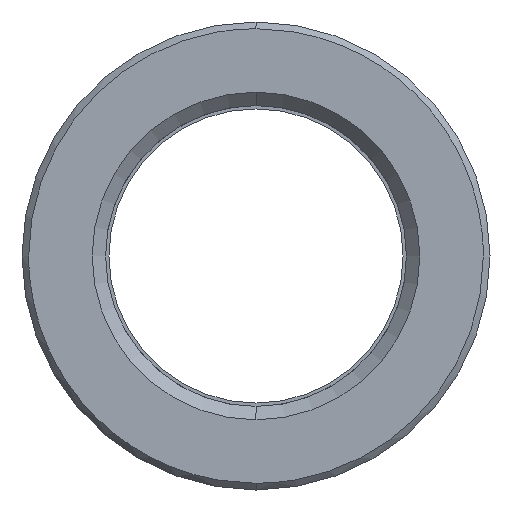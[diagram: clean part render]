
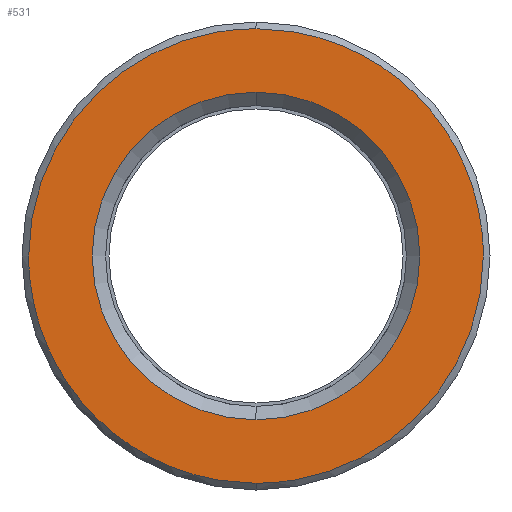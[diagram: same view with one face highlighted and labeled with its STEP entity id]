
A CAD part, left-side view. The second image highlights one B-rep face of the part: STEP entity #531.
In plain terms, the highlighted planar face has unit normal (-1, 0, 0).
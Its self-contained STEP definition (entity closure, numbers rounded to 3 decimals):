
#311=CARTESIAN_POINT('Axis2P3D Location',(0.,0.,0.)) ;
#315=CARTESIAN_POINT('Vertex',(0.,12.25,0.)) ;
#317=CARTESIAN_POINT('Vertex',(0.,0.,12.25)) ;
#320=CARTESIAN_POINT('Axis2P3D Location',(0.,0.,0.)) ;
#324=CARTESIAN_POINT('Vertex',(0.,0.,-12.25)) ;
#351=CARTESIAN_POINT('Axis2P3D Location',(0.,0.,0.)) ;
#355=CARTESIAN_POINT('Vertex',(0.,-12.25,0.)) ;
#358=CARTESIAN_POINT('Axis2P3D Location',(0.,0.,0.)) ;
#438=CARTESIAN_POINT('Axis2P3D Location',(0.,17.,0.)) ;
#444=CARTESIAN_POINT('Control Point',(0.,0.,-17.)) ;
#445=CARTESIAN_POINT('Control Point',(0.,1.123,-17.)) ;
#446=CARTESIAN_POINT('Control Point',(0.,2.246,-16.907)) ;
#447=CARTESIAN_POINT('Control Point',(0.,3.359,-16.722)) ;
#448=CARTESIAN_POINT('Control Point',(0.,6.023,-16.047)) ;
#449=CARTESIAN_POINT('Control Point',(0.,8.508,-14.851)) ;
#450=CARTESIAN_POINT('Control Point',(0.,9.884,-13.974)) ;
#451=CARTESIAN_POINT('Control Point',(0.,12.399,-11.909)) ;
#452=CARTESIAN_POINT('Control Point',(0.,14.361,-9.312)) ;
#453=CARTESIAN_POINT('Control Point',(0.,15.182,-7.903)) ;
#454=CARTESIAN_POINT('Control Point',(0.,16.222,-5.498)) ;
#455=CARTESIAN_POINT('Control Point',(0.,16.786,-2.951)) ;
#456=CARTESIAN_POINT('Control Point',(0.,16.929,-1.972)) ;
#457=CARTESIAN_POINT('Control Point',(0.,17.,-0.986)) ;
#458=CARTESIAN_POINT('Control Point',(0.,17.,0.)) ;
#459=CARTESIAN_POINT('Vertex',(0.,0.,-17.)) ;
#461=CARTESIAN_POINT('Vertex',(0.,17.,0.)) ;
#465=CARTESIAN_POINT('Control Point',(0.,-17.,0.)) ;
#466=CARTESIAN_POINT('Control Point',(0.,-17.,-1.616)) ;
#467=CARTESIAN_POINT('Control Point',(0.,-16.808,-3.232)) ;
#468=CARTESIAN_POINT('Control Point',(0.,-16.424,-4.817)) ;
#469=CARTESIAN_POINT('Control Point',(0.,-15.287,-7.867)) ;
#470=CARTESIAN_POINT('Control Point',(0.,-13.466,-10.565)) ;
#471=CARTESIAN_POINT('Control Point',(0.,-12.399,-11.799)) ;
#472=CARTESIAN_POINT('Control Point',(0.,-9.993,-13.99)) ;
#473=CARTESIAN_POINT('Control Point',(0.,-7.14,-15.556)) ;
#474=CARTESIAN_POINT('Control Point',(0.,-5.626,-16.165)) ;
#475=CARTESIAN_POINT('Control Point',(0.,-3.576,-16.717)) ;
#476=CARTESIAN_POINT('Control Point',(0.,-1.478,-16.946)) ;
#477=CARTESIAN_POINT('Control Point',(0.,-0.986,-16.982)) ;
#478=CARTESIAN_POINT('Control Point',(0.,-0.493,-17.)) ;
#479=CARTESIAN_POINT('Control Point',(0.,0.,-17.)) ;
#480=CARTESIAN_POINT('Vertex',(0.,-17.,0.)) ;
#484=CARTESIAN_POINT('Control Point',(0.,0.,17.)) ;
#485=CARTESIAN_POINT('Control Point',(0.,-1.123,17.)) ;
#486=CARTESIAN_POINT('Control Point',(0.,-2.246,16.907)) ;
#487=CARTESIAN_POINT('Control Point',(0.,-3.359,16.722)) ;
#488=CARTESIAN_POINT('Control Point',(0.,-6.023,16.047)) ;
#489=CARTESIAN_POINT('Control Point',(0.,-8.508,14.851)) ;
#490=CARTESIAN_POINT('Control Point',(0.,-9.884,13.974)) ;
#491=CARTESIAN_POINT('Control Point',(0.,-12.399,11.909)) ;
#492=CARTESIAN_POINT('Control Point',(0.,-14.361,9.312)) ;
#493=CARTESIAN_POINT('Control Point',(0.,-15.182,7.903)) ;
#494=CARTESIAN_POINT('Control Point',(0.,-16.222,5.498)) ;
#495=CARTESIAN_POINT('Control Point',(0.,-16.786,2.951)) ;
#496=CARTESIAN_POINT('Control Point',(0.,-16.929,1.972)) ;
#497=CARTESIAN_POINT('Control Point',(0.,-17.,0.986)) ;
#498=CARTESIAN_POINT('Control Point',(0.,-17.,0.)) ;
#499=CARTESIAN_POINT('Vertex',(0.,0.,17.)) ;
#503=CARTESIAN_POINT('Control Point',(0.,17.,0.)) ;
#504=CARTESIAN_POINT('Control Point',(0.,17.,1.616)) ;
#505=CARTESIAN_POINT('Control Point',(0.,16.808,3.232)) ;
#506=CARTESIAN_POINT('Control Point',(0.,16.424,4.817)) ;
#507=CARTESIAN_POINT('Control Point',(0.,15.287,7.867)) ;
#508=CARTESIAN_POINT('Control Point',(0.,13.466,10.565)) ;
#509=CARTESIAN_POINT('Control Point',(0.,12.399,11.799)) ;
#510=CARTESIAN_POINT('Control Point',(0.,9.993,13.99)) ;
#511=CARTESIAN_POINT('Control Point',(0.,7.14,15.556)) ;
#512=CARTESIAN_POINT('Control Point',(0.,5.626,16.165)) ;
#513=CARTESIAN_POINT('Control Point',(0.,3.576,16.717)) ;
#514=CARTESIAN_POINT('Control Point',(0.,1.478,16.946)) ;
#515=CARTESIAN_POINT('Control Point',(0.,0.986,16.982)) ;
#516=CARTESIAN_POINT('Control Point',(0.,0.493,17.)) ;
#517=CARTESIAN_POINT('Control Point',(0.,0.,17.)) ;
#312=DIRECTION('Axis2P3D Direction',(-1.,0.,0.)) ;
#321=DIRECTION('Axis2P3D Direction',(-1.,0.,0.)) ;
#352=DIRECTION('Axis2P3D Direction',(-1.,0.,0.)) ;
#359=DIRECTION('Axis2P3D Direction',(-1.,0.,0.)) ;
#439=DIRECTION('Axis2P3D Direction',(-1.,0.,0.)) ;
#440=DIRECTION('Axis2P3D XDirection',(0.,0.,1.)) ;
#313=AXIS2_PLACEMENT_3D('Circle Axis2P3D',#311,#312,$) ;
#322=AXIS2_PLACEMENT_3D('Circle Axis2P3D',#320,#321,$) ;
#353=AXIS2_PLACEMENT_3D('Circle Axis2P3D',#351,#352,$) ;
#360=AXIS2_PLACEMENT_3D('Circle Axis2P3D',#358,#359,$) ;
#441=AXIS2_PLACEMENT_3D('Plane Axis2P3D',#438,#439,#440) ;
#520=ORIENTED_EDGE('',*,*,#463,.F.) ;
#521=ORIENTED_EDGE('',*,*,#482,.F.) ;
#522=ORIENTED_EDGE('',*,*,#501,.F.) ;
#523=ORIENTED_EDGE('',*,*,#518,.F.) ;
#526=ORIENTED_EDGE('',*,*,#319,.T.) ;
#527=ORIENTED_EDGE('',*,*,#362,.T.) ;
#528=ORIENTED_EDGE('',*,*,#357,.T.) ;
#529=ORIENTED_EDGE('',*,*,#326,.T.) ;
#530=FACE_BOUND('',#525,.T.) ;
#531=ADVANCED_FACE('553-22X136',(#524,#530),#442,.T.) ;
#443=B_SPLINE_CURVE_WITH_KNOTS('',5,(#444,#445,#446,#447,#448,#449,#450,#451,#452,#453,#454,#455,#456,#457,#458),.UNSPECIFIED.,.F.,.U.,(6,3,3,3,6),(37.764,45.705,57.131,68.557,75.528),.UNSPECIFIED.) ;
#464=B_SPLINE_CURVE_WITH_KNOTS('',5,(#465,#466,#467,#468,#469,#470,#471,#472,#473,#474,#475,#476,#477,#478,#479),.UNSPECIFIED.,.F.,.U.,(6,3,3,3,6),(0.,11.426,22.852,34.279,37.764),.UNSPECIFIED.) ;
#483=B_SPLINE_CURVE_WITH_KNOTS('',5,(#484,#485,#486,#487,#488,#489,#490,#491,#492,#493,#494,#495,#496,#497,#498),.UNSPECIFIED.,.F.,.U.,(6,3,3,3,6),(37.764,45.705,57.131,68.557,75.528),.UNSPECIFIED.) ;
#502=B_SPLINE_CURVE_WITH_KNOTS('',5,(#503,#504,#505,#506,#507,#508,#509,#510,#511,#512,#513,#514,#515,#516,#517),.UNSPECIFIED.,.F.,.U.,(6,3,3,3,6),(0.,11.426,22.852,34.279,37.764),.UNSPECIFIED.) ;
#314=CIRCLE('generated circle',#313,12.25) ;
#323=CIRCLE('generated circle',#322,12.25) ;
#354=CIRCLE('generated circle',#353,12.25) ;
#361=CIRCLE('generated circle',#360,12.25) ;
#319=EDGE_CURVE('',#316,#318,#314,.F.) ;
#326=EDGE_CURVE('',#325,#316,#323,.F.) ;
#357=EDGE_CURVE('',#356,#325,#354,.F.) ;
#362=EDGE_CURVE('',#318,#356,#361,.F.) ;
#463=EDGE_CURVE('',#460,#462,#443,.T.) ;
#482=EDGE_CURVE('',#481,#460,#464,.T.) ;
#501=EDGE_CURVE('',#500,#481,#483,.T.) ;
#518=EDGE_CURVE('',#462,#500,#502,.T.) ;
#519=EDGE_LOOP('',(#520,#521,#522,#523)) ;
#525=EDGE_LOOP('',(#526,#527,#528,#529)) ;
#524=FACE_OUTER_BOUND('',#519,.T.) ;
#442=PLANE('Plane',#441) ;
#316=VERTEX_POINT('',#315) ;
#318=VERTEX_POINT('',#317) ;
#325=VERTEX_POINT('',#324) ;
#356=VERTEX_POINT('',#355) ;
#460=VERTEX_POINT('',#459) ;
#462=VERTEX_POINT('',#461) ;
#481=VERTEX_POINT('',#480) ;
#500=VERTEX_POINT('',#499) ;
